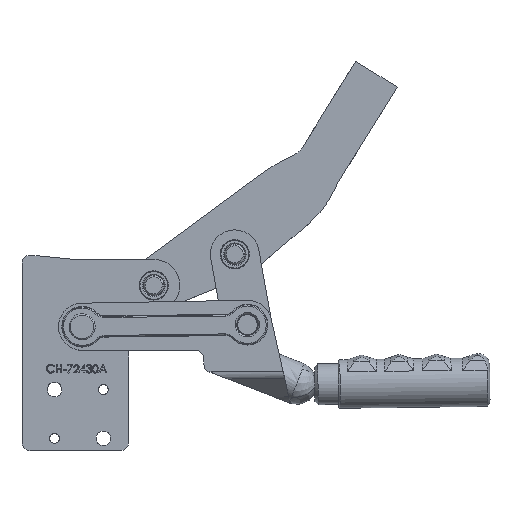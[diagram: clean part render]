
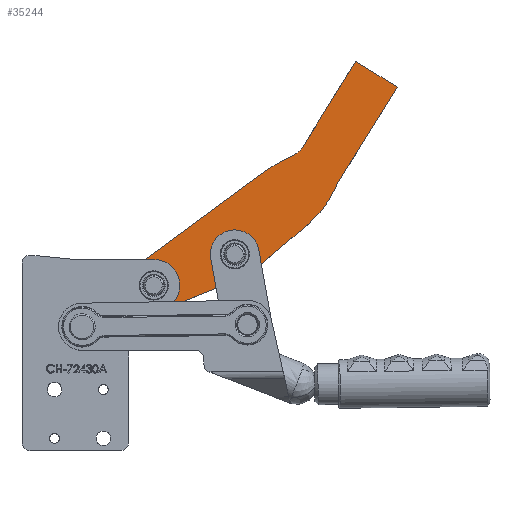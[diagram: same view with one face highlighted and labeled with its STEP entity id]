
A CAD part, top view. The second image highlights one B-rep face of the part: STEP entity #35244.
In plain terms, the highlighted planar face has unit normal (0, 0, 1).
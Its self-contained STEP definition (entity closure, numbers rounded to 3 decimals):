
#1146=PLANE('',#38677);
#1811=FACE_BOUND('',#5211,.T.);
#1812=FACE_BOUND('',#5212,.T.);
#3216=FACE_OUTER_BOUND('',#5210,.T.);
#5210=EDGE_LOOP('',(#30365,#30366,#30367,#30368,#30369,#30370,#30371,#30372,
#30373,#30374,#30375));
#5211=EDGE_LOOP('',(#30376,#30377));
#5212=EDGE_LOOP('',(#30378,#30379));
#8034=LINE('',#67049,#11306);
#8038=LINE('',#67061,#11310);
#8042=LINE('',#67073,#11314);
#8046=LINE('',#67085,#11318);
#8049=LINE('',#67091,#11321);
#8051=LINE('',#67094,#11323);
#11306=VECTOR('',#47292,1000.);
#11310=VECTOR('',#47304,1000.);
#11314=VECTOR('',#47316,1000.);
#11318=VECTOR('',#47328,1000.);
#11321=VECTOR('',#47333,1000.);
#11323=VECTOR('',#47337,1000.);
#13633=CIRCLE('',#38647,6.5);
#13636=CIRCLE('',#38650,6.5);
#13637=CIRCLE('',#38652,6.5);
#13640=CIRCLE('',#38655,6.5);
#13642=CIRCLE('',#38658,10.);
#13644=CIRCLE('',#38661,118.);
#13646=CIRCLE('',#38665,16.);
#13648=CIRCLE('',#38669,30.);
#13650=CIRCLE('',#38673,64.053);
#16571=VERTEX_POINT('',#67010);
#16572=VERTEX_POINT('',#67011);
#16575=VERTEX_POINT('',#67020);
#16576=VERTEX_POINT('',#67021);
#16581=VERTEX_POINT('',#67033);
#16582=VERTEX_POINT('',#67035);
#16584=VERTEX_POINT('',#67041);
#16586=VERTEX_POINT('',#67047);
#16588=VERTEX_POINT('',#67053);
#16590=VERTEX_POINT('',#67059);
#16592=VERTEX_POINT('',#67065);
#16594=VERTEX_POINT('',#67071);
#16596=VERTEX_POINT('',#67077);
#16598=VERTEX_POINT('',#67083);
#16600=VERTEX_POINT('',#67089);
#21326=EDGE_CURVE('',#16571,#16572,#13633,.T.);
#21330=EDGE_CURVE('',#16572,#16571,#13636,.T.);
#21331=EDGE_CURVE('',#16575,#16576,#13637,.T.);
#21335=EDGE_CURVE('',#16576,#16575,#13640,.T.);
#21338=EDGE_CURVE('',#16581,#16582,#13642,.T.);
#21342=EDGE_CURVE('',#16581,#16584,#13644,.T.);
#21345=EDGE_CURVE('',#16586,#16584,#8034,.T.);
#21348=EDGE_CURVE('',#16586,#16588,#13646,.T.);
#21351=EDGE_CURVE('',#16590,#16588,#8038,.T.);
#21354=EDGE_CURVE('',#16590,#16592,#13648,.T.);
#21357=EDGE_CURVE('',#16592,#16594,#8042,.T.);
#21360=EDGE_CURVE('',#16594,#16596,#13650,.T.);
#21363=EDGE_CURVE('',#16596,#16598,#8046,.T.);
#21366=EDGE_CURVE('',#16600,#16598,#8049,.T.);
#21368=EDGE_CURVE('',#16582,#16600,#8051,.T.);
#30365=ORIENTED_EDGE('',*,*,#21338,.F.);
#30366=ORIENTED_EDGE('',*,*,#21342,.T.);
#30367=ORIENTED_EDGE('',*,*,#21345,.F.);
#30368=ORIENTED_EDGE('',*,*,#21348,.T.);
#30369=ORIENTED_EDGE('',*,*,#21351,.F.);
#30370=ORIENTED_EDGE('',*,*,#21354,.T.);
#30371=ORIENTED_EDGE('',*,*,#21357,.T.);
#30372=ORIENTED_EDGE('',*,*,#21360,.T.);
#30373=ORIENTED_EDGE('',*,*,#21363,.T.);
#30374=ORIENTED_EDGE('',*,*,#21366,.F.);
#30375=ORIENTED_EDGE('',*,*,#21368,.F.);
#30376=ORIENTED_EDGE('',*,*,#21331,.F.);
#30377=ORIENTED_EDGE('',*,*,#21335,.F.);
#30378=ORIENTED_EDGE('',*,*,#21326,.F.);
#30379=ORIENTED_EDGE('',*,*,#21330,.F.);
#35244=ADVANCED_FACE('',(#3216,#1811,#1812),#1146,.T.);
#38647=AXIS2_PLACEMENT_3D('',#67012,#47253,#47254);
#38650=AXIS2_PLACEMENT_3D('',#67018,#47260,#47261);
#38652=AXIS2_PLACEMENT_3D('',#67022,#47264,#47265);
#38655=AXIS2_PLACEMENT_3D('',#67028,#47271,#47272);
#38658=AXIS2_PLACEMENT_3D('',#67036,#47278,#47279);
#38661=AXIS2_PLACEMENT_3D('',#67043,#47286,#47287);
#38665=AXIS2_PLACEMENT_3D('',#67055,#47298,#47299);
#38669=AXIS2_PLACEMENT_3D('',#67067,#47310,#47311);
#38673=AXIS2_PLACEMENT_3D('',#67079,#47322,#47323);
#38677=AXIS2_PLACEMENT_3D('',#67095,#47338,#47339);
#47253=DIRECTION('center_axis',(0.,0.,1.));
#47254=DIRECTION('ref_axis',(1.,0.,0.));
#47260=DIRECTION('center_axis',(0.,0.,1.));
#47261=DIRECTION('ref_axis',(1.,0.,0.));
#47264=DIRECTION('center_axis',(0.,0.,1.));
#47265=DIRECTION('ref_axis',(1.,0.,0.));
#47271=DIRECTION('center_axis',(0.,0.,1.));
#47272=DIRECTION('ref_axis',(1.,0.,0.));
#47278=DIRECTION('center_axis',(0.,0.,1.));
#47279=DIRECTION('ref_axis',(1.,0.,0.));
#47286=DIRECTION('center_axis',(0.,0.,1.));
#47287=DIRECTION('ref_axis',(1.,0.,0.));
#47292=DIRECTION('',(-0.928,0.372,0.));
#47298=DIRECTION('center_axis',(0.,0.,1.));
#47299=DIRECTION('ref_axis',(1.,0.,0.));
#47304=DIRECTION('',(0.807,-0.591,0.));
#47310=DIRECTION('center_axis',(0.,0.,1.));
#47311=DIRECTION('ref_axis',(1.,0.,0.));
#47316=DIRECTION('',(-0.952,0.306,0.));
#47322=DIRECTION('center_axis',(0.,0.,1.));
#47323=DIRECTION('ref_axis',(1.,0.,0.));
#47328=DIRECTION('',(-1.,0.,0.));
#47333=DIRECTION('',(0.,1.,0.));
#47337=DIRECTION('',(-1.,0.,0.));
#47338=DIRECTION('center_axis',(0.,0.,1.));
#47339=DIRECTION('ref_axis',(1.,0.,0.));
#67010=CARTESIAN_POINT('',(-2375.376,2093.264,16.));
#67011=CARTESIAN_POINT('',(-2362.376,2093.264,16.));
#67012=CARTESIAN_POINT('Origin',(-2368.876,2093.264,16.));
#67018=CARTESIAN_POINT('Origin',(-2368.876,2093.264,16.));
#67020=CARTESIAN_POINT('',(-2417.879,2125.489,16.));
#67021=CARTESIAN_POINT('',(-2404.879,2125.489,16.));
#67022=CARTESIAN_POINT('Origin',(-2411.379,2125.489,16.));
#67028=CARTESIAN_POINT('Origin',(-2411.379,2125.489,16.));
#67033=CARTESIAN_POINT('',(-2482.939,2124.563,16.));
#67035=CARTESIAN_POINT('',(-2488.517,2126.264,16.));
#67036=CARTESIAN_POINT('Origin',(-2488.517,2116.264,16.));
#67041=CARTESIAN_POINT('',(-2460.819,2112.888,16.));
#67043=CARTESIAN_POINT('Origin',(-2417.108,2222.493,16.));
#67047=CARTESIAN_POINT('',(-2374.822,2078.409,16.));
#67049=CARTESIAN_POINT('',(-2395.463,2086.685,16.));
#67053=CARTESIAN_POINT('',(-2359.425,2106.174,16.));
#67055=CARTESIAN_POINT('Origin',(-2368.876,2093.264,16.));
#67059=CARTESIAN_POINT('',(-2400.91,2136.546,16.));
#67061=CARTESIAN_POINT('',(-2345.971,2096.324,16.));
#67065=CARTESIAN_POINT('',(-2407.228,2140.097,16.));
#67067=CARTESIAN_POINT('Origin',(-2418.659,2112.36,16.));
#67071=CARTESIAN_POINT('',(-2450.924,2154.127,16.));
#67073=CARTESIAN_POINT('',(-2390.29,2134.658,16.));
#67077=CARTESIAN_POINT('',(-2481.378,2156.264,16.));
#67079=CARTESIAN_POINT('Origin',(-2470.506,2093.14,16.));
#67083=CARTESIAN_POINT('',(-2551.376,2156.264,16.));
#67085=CARTESIAN_POINT('',(-2446.832,2156.264,16.));
#67089=CARTESIAN_POINT('',(-2551.376,2126.264,16.));
#67091=CARTESIAN_POINT('',(-2551.376,1958.559,16.));
#67094=CARTESIAN_POINT('',(-2446.832,2126.264,16.));
#67095=CARTESIAN_POINT('Origin',(-2446.832,1958.559,16.));
